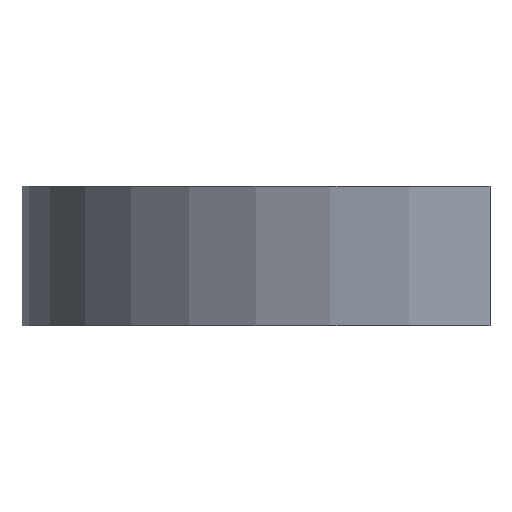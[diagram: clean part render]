
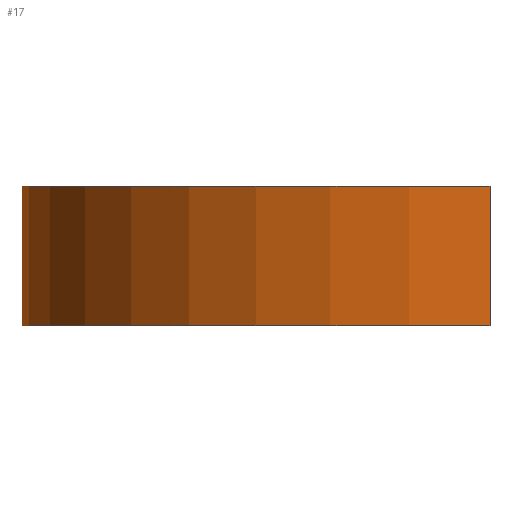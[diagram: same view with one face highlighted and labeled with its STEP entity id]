
A CAD part, left-side view. The second image highlights one B-rep face of the part: STEP entity #17.
In plain terms, the highlighted cylindrical face has radius 134 mm (diameter 268 mm), a partial arc.
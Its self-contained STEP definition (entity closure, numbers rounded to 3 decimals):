
#17 = ADVANCED_FACE('',(#18),#32,.T.);
#18 = FACE_BOUND('',#19,.T.);
#19 = EDGE_LOOP('',(#20,#55,#88,#116));
#20 = ORIENTED_EDGE('',*,*,#21,.T.);
#21 = EDGE_CURVE('',#22,#24,#26,.T.);
#22 = VERTEX_POINT('',#23);
#23 = CARTESIAN_POINT('',(-134.,0.,0.));
#24 = VERTEX_POINT('',#25);
#25 = CARTESIAN_POINT('',(-134.,0.,40.));
#26 = SURFACE_CURVE('',#27,(#31,#43),.PCURVE_S1.);
#27 = LINE('',#28,#29);
#28 = CARTESIAN_POINT('',(-134.,0.,0.));
#29 = VECTOR('',#30,1.);
#30 = DIRECTION('',(-0.,-0.,1.));
#31 = PCURVE('',#32,#37);
#32 = CYLINDRICAL_SURFACE('',#33,134.);
#33 = AXIS2_PLACEMENT_3D('',#34,#35,#36);
#34 = CARTESIAN_POINT('',(0.,0.,0.));
#35 = DIRECTION('',(0.,-0.,-1.));
#36 = DIRECTION('',(-1.,-0.,-0.));
#37 = DEFINITIONAL_REPRESENTATION('',(#38),#42);
#38 = LINE('',#39,#40);
#39 = CARTESIAN_POINT('',(0.,0.));
#40 = VECTOR('',#41,1.);
#41 = DIRECTION('',(0.,-1.));
#42 = ( GEOMETRIC_REPRESENTATION_CONTEXT(2) 
PARAMETRIC_REPRESENTATION_CONTEXT() REPRESENTATION_CONTEXT('2D SPACE',''
  ) );
#43 = PCURVE('',#44,#49);
#44 = PLANE('',#45);
#45 = AXIS2_PLACEMENT_3D('',#46,#47,#48);
#46 = CARTESIAN_POINT('',(-131.,0.,0.));
#47 = DIRECTION('',(-0.,1.,-0.));
#48 = DIRECTION('',(1.,0.,0.));
#49 = DEFINITIONAL_REPRESENTATION('',(#50),#54);
#50 = LINE('',#51,#52);
#51 = CARTESIAN_POINT('',(-3.,0.));
#52 = VECTOR('',#53,1.);
#53 = DIRECTION('',(-0.,-1.));
#54 = ( GEOMETRIC_REPRESENTATION_CONTEXT(2) 
PARAMETRIC_REPRESENTATION_CONTEXT() REPRESENTATION_CONTEXT('2D SPACE',''
  ) );
#55 = ORIENTED_EDGE('',*,*,#56,.T.);
#56 = EDGE_CURVE('',#24,#57,#59,.T.);
#57 = VERTEX_POINT('',#58);
#58 = CARTESIAN_POINT('',(131.964,23.269,40.));
#59 = SURFACE_CURVE('',#60,(#65,#72),.PCURVE_S1.);
#60 = CIRCLE('',#61,134.);
#61 = AXIS2_PLACEMENT_3D('',#62,#63,#64);
#62 = CARTESIAN_POINT('',(0.,0.,40.));
#63 = DIRECTION('',(0.,0.,-1.));
#64 = DIRECTION('',(-1.,-0.,-0.));
#65 = PCURVE('',#32,#66);
#66 = DEFINITIONAL_REPRESENTATION('',(#67),#71);
#67 = LINE('',#68,#69);
#68 = CARTESIAN_POINT('',(0.,-40.));
#69 = VECTOR('',#70,1.);
#70 = DIRECTION('',(1.,0.));
#71 = ( GEOMETRIC_REPRESENTATION_CONTEXT(2) 
PARAMETRIC_REPRESENTATION_CONTEXT() REPRESENTATION_CONTEXT('2D SPACE',''
  ) );
#72 = PCURVE('',#73,#78);
#73 = PLANE('',#74);
#74 = AXIS2_PLACEMENT_3D('',#75,#76,#77);
#75 = CARTESIAN_POINT('',(-7.065,80.75,40.));
#76 = DIRECTION('',(-0.,-0.,1.));
#77 = DIRECTION('',(1.,0.,0.));
#78 = DEFINITIONAL_REPRESENTATION('',(#79),#87);
#79 = ( BOUNDED_CURVE() B_SPLINE_CURVE(2,(#80,#81,#82,#83,#84,#85,#86),
.UNSPECIFIED.,.T.,.F.) B_SPLINE_CURVE_WITH_KNOTS((1,2,2,2,2,1),(
    -2.094,0.,2.094,4.189,6.283,
8.378),.UNSPECIFIED.) CURVE() GEOMETRIC_REPRESENTATION_ITEM() 
RATIONAL_B_SPLINE_CURVE((1.,0.5,1.,0.5,1.,0.5,1.)) REPRESENTATION_ITEM(
  '') );
#80 = CARTESIAN_POINT('',(-126.935,-80.75));
#81 = CARTESIAN_POINT('',(-126.935,151.345));
#82 = CARTESIAN_POINT('',(74.065,35.298));
#83 = CARTESIAN_POINT('',(275.065,-80.75));
#84 = CARTESIAN_POINT('',(74.065,-196.797));
#85 = CARTESIAN_POINT('',(-126.935,-312.845));
#86 = CARTESIAN_POINT('',(-126.935,-80.75));
#87 = ( GEOMETRIC_REPRESENTATION_CONTEXT(2) 
PARAMETRIC_REPRESENTATION_CONTEXT() REPRESENTATION_CONTEXT('2D SPACE',''
  ) );
#88 = ORIENTED_EDGE('',*,*,#89,.F.);
#89 = EDGE_CURVE('',#90,#57,#92,.T.);
#90 = VERTEX_POINT('',#91);
#91 = CARTESIAN_POINT('',(131.964,23.269,0.));
#92 = SURFACE_CURVE('',#93,(#97,#104),.PCURVE_S1.);
#93 = LINE('',#94,#95);
#94 = CARTESIAN_POINT('',(131.964,23.269,0.));
#95 = VECTOR('',#96,1.);
#96 = DIRECTION('',(-0.,-0.,1.));
#97 = PCURVE('',#32,#98);
#98 = DEFINITIONAL_REPRESENTATION('',(#99),#103);
#99 = LINE('',#100,#101);
#100 = CARTESIAN_POINT('',(2.967,0.));
#101 = VECTOR('',#102,1.);
#102 = DIRECTION('',(0.,-1.));
#103 = ( GEOMETRIC_REPRESENTATION_CONTEXT(2) 
PARAMETRIC_REPRESENTATION_CONTEXT() REPRESENTATION_CONTEXT('2D SPACE',''
  ) );
#104 = PCURVE('',#105,#110);
#105 = PLANE('',#106);
#106 = AXIS2_PLACEMENT_3D('',#107,#108,#109);
#107 = CARTESIAN_POINT('',(131.964,23.269,0.));
#108 = DIRECTION('',(-0.174,0.985,-0.));
#109 = DIRECTION('',(0.985,0.174,0.));
#110 = DEFINITIONAL_REPRESENTATION('',(#111),#115);
#111 = LINE('',#112,#113);
#112 = CARTESIAN_POINT('',(-0.,-0.));
#113 = VECTOR('',#114,1.);
#114 = DIRECTION('',(-0.,-1.));
#115 = ( GEOMETRIC_REPRESENTATION_CONTEXT(2) 
PARAMETRIC_REPRESENTATION_CONTEXT() REPRESENTATION_CONTEXT('2D SPACE',''
  ) );
#116 = ORIENTED_EDGE('',*,*,#117,.F.);
#117 = EDGE_CURVE('',#22,#90,#118,.T.);
#118 = SURFACE_CURVE('',#119,(#124,#131),.PCURVE_S1.);
#119 = CIRCLE('',#120,134.);
#120 = AXIS2_PLACEMENT_3D('',#121,#122,#123);
#121 = CARTESIAN_POINT('',(0.,0.,0.));
#122 = DIRECTION('',(0.,0.,-1.));
#123 = DIRECTION('',(-1.,-0.,-0.));
#124 = PCURVE('',#32,#125);
#125 = DEFINITIONAL_REPRESENTATION('',(#126),#130);
#126 = LINE('',#127,#128);
#127 = CARTESIAN_POINT('',(0.,0.));
#128 = VECTOR('',#129,1.);
#129 = DIRECTION('',(1.,0.));
#130 = ( GEOMETRIC_REPRESENTATION_CONTEXT(2) 
PARAMETRIC_REPRESENTATION_CONTEXT() REPRESENTATION_CONTEXT('2D SPACE',''
  ) );
#131 = PCURVE('',#132,#137);
#132 = PLANE('',#133);
#133 = AXIS2_PLACEMENT_3D('',#134,#135,#136);
#134 = CARTESIAN_POINT('',(-7.065,80.75,0.));
#135 = DIRECTION('',(-0.,-0.,1.));
#136 = DIRECTION('',(1.,0.,0.));
#137 = DEFINITIONAL_REPRESENTATION('',(#138),#146);
#138 = ( BOUNDED_CURVE() B_SPLINE_CURVE(2,(#139,#140,#141,#142,#143,#144
,#145),.UNSPECIFIED.,.T.,.F.) B_SPLINE_CURVE_WITH_KNOTS((1,2,2,2,2,1),(
    -2.094,0.,2.094,4.189,6.283,
8.378),.UNSPECIFIED.) CURVE() GEOMETRIC_REPRESENTATION_ITEM() 
RATIONAL_B_SPLINE_CURVE((1.,0.5,1.,0.5,1.,0.5,1.)) REPRESENTATION_ITEM(
  '') );
#139 = CARTESIAN_POINT('',(-126.935,-80.75));
#140 = CARTESIAN_POINT('',(-126.935,151.345));
#141 = CARTESIAN_POINT('',(74.065,35.298));
#142 = CARTESIAN_POINT('',(275.065,-80.75));
#143 = CARTESIAN_POINT('',(74.065,-196.797));
#144 = CARTESIAN_POINT('',(-126.935,-312.845));
#145 = CARTESIAN_POINT('',(-126.935,-80.75));
#146 = ( GEOMETRIC_REPRESENTATION_CONTEXT(2) 
PARAMETRIC_REPRESENTATION_CONTEXT() REPRESENTATION_CONTEXT('2D SPACE',''
  ) );
